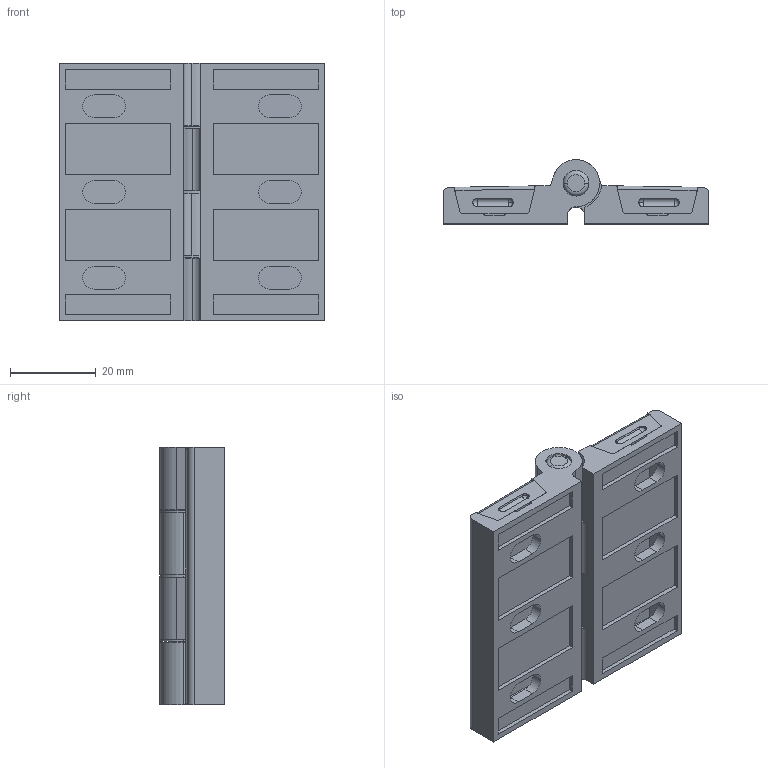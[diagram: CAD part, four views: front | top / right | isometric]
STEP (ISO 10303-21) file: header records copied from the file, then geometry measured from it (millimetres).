
FILE_DESCRIPTION (( 'STEP AP203' ), '1' );
FILE_NAME ('SK2-003-1.STEP', '2022-11-10T06:04:32', ( '' ), ( '' ), 'SwSTEP 2.0', 'SolidWorks 2019', '' );
FILE_SCHEMA (( 'CONFIG_CONTROL_DESIGN' ));
Length unit declared in the file: millimetre
Products named in the file (7): 錨璃4^蚾饜极1; 錨璃6^蚾饜极1; 錨璃1^蚾饜极1; 錨璃1; 錨璃5^蚾饜极1; SK2-003-1; 錨璃2^蚾饜极1
Assembly tree (8 placements, depth 2):
  錨璃1^蚾饜极1
  錨璃5^蚾饜极1
  SK2-003-1
    錨璃1  x2
    錨璃4^蚾饜极1
    錨璃6^蚾饜极1  x3
    錨璃2^蚾饜极1  x2
Bounding box: 62 x 15 x 60 mm (x, y, z)
Volume: 21405.4 mm3; surface area: 21777.8 mm2
Topology: 24 solids, 24 shells, 2142 faces, 5266 edges, 3202 vertices
Faces by surface type: cylinder 786, plane 608, torus 356, bspline 312, sphere 80
Entity records: 38855 total; most frequent: CARTESIAN_POINT 13116, DIRECTION 5309, ORIENTED_EDGE 5228, EDGE_CURVE 2614, AXIS2_PLACEMENT_3D 2032, VERTEX_POINT 1596, LINE 1245, VECTOR 1245
